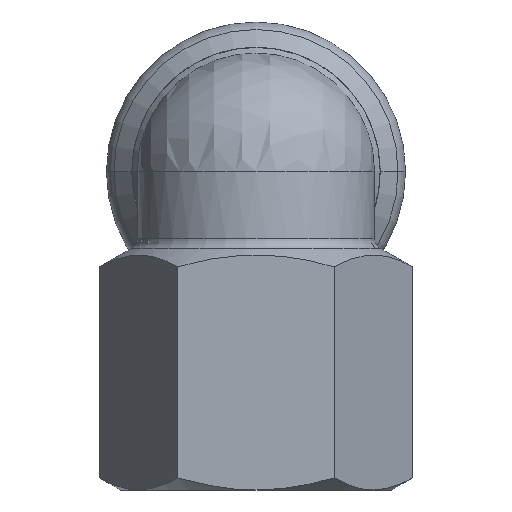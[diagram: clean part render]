
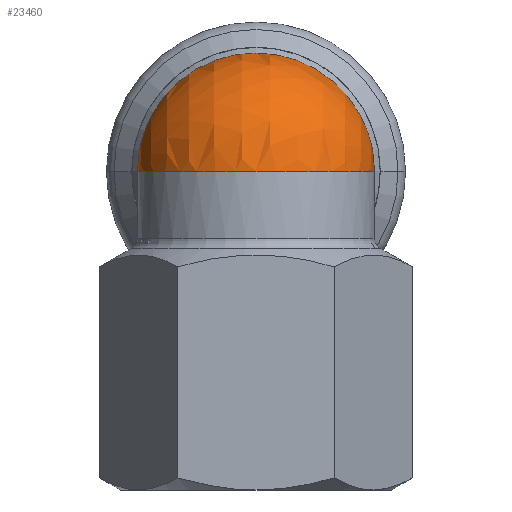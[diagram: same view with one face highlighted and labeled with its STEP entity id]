
A CAD part, left-side view. The second image highlights one B-rep face of the part: STEP entity #23460.
In plain terms, the highlighted spherical face has radius 10.5 mm.
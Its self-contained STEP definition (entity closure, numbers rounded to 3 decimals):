
#11420=CARTESIAN_POINT('',(38.369,51.93,28.2));
#11430=VERTEX_POINT('',#11420);
#11480=CARTESIAN_POINT('',(38.369,41.43,28.2));
#11490=DIRECTION('',(0.,0.,-1.));
#11500=DIRECTION('',(1.,-0.,0.));
#11510=AXIS2_PLACEMENT_3D('',#11480,#11490,#11500);
#11520=CIRCLE('',#11510,10.5);
#11530=CARTESIAN_POINT('',(38.369,30.93,28.2));
#11540=VERTEX_POINT('',#11530);
#11550=EDGE_CURVE('',#11540,#11430,#11520,.T.);
#23310=CARTESIAN_POINT('',(38.369,41.43,28.2));
#23320=DIRECTION('',(0.,1.,0.));
#23330=DIRECTION('',(1.,0.,0.));
#23340=AXIS2_PLACEMENT_3D('',#23310,#23320,#23330);
#23350=SPHERICAL_SURFACE('',#23340,10.5);
#23360=CARTESIAN_POINT('',(38.369,41.43,28.2));
#23370=DIRECTION('',(1.,0.,0.));
#23380=DIRECTION('',(0.,-1.,0.));
#23390=AXIS2_PLACEMENT_3D('',#23360,#23370,#23380);
#23400=CIRCLE('',#23390,10.5);
#23410=EDGE_CURVE('',#11430,#11540,#23400,.T.);
#23420=ORIENTED_EDGE('',*,*,#23410,.F.);
#23430=ORIENTED_EDGE('',*,*,#11550,.F.);
#23440=EDGE_LOOP('',(#23430,#23420));
#23450=FACE_OUTER_BOUND('',#23440,.T.);
#23460=ADVANCED_FACE('',(#23450),#23350,.T.);
